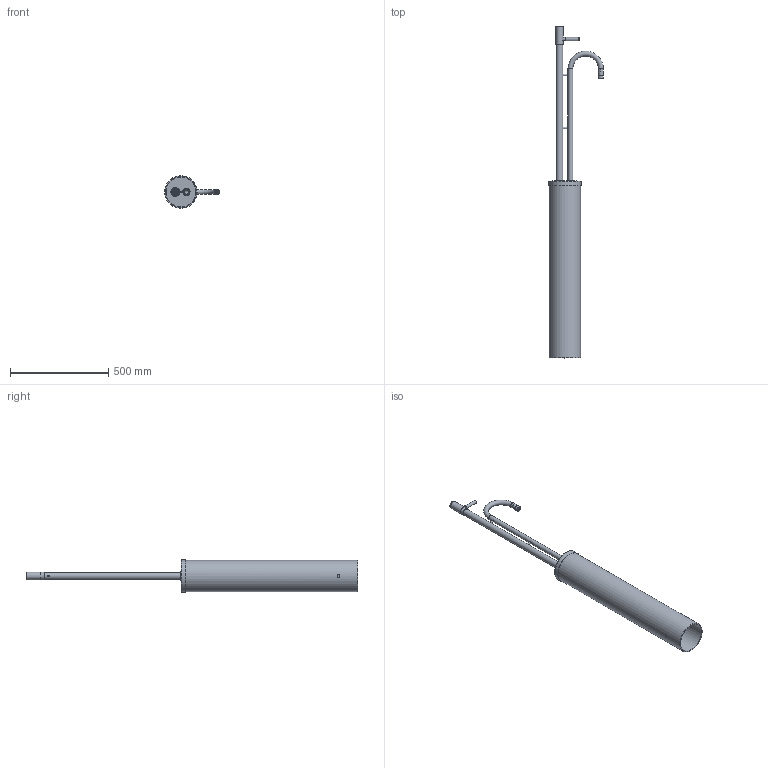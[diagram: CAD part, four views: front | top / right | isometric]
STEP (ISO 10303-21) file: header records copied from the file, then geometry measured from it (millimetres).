
FILE_DESCRIPTION(/* description */ ('Duo L 30 Havevandpost (F102)'),/* implementation_level */ '2;1');
FILE_NAME(/* name */ 'DH 00400.stp',/* time_stamp */ '2022-12-15T14:11:52+01:00',/* author */ ('thomas'),/* organization */ (''),/* preprocessor_version */ 'ST-DEVELOPER v19.2',/* originating_system */ 'Autodesk Inventor 2023',/* authorisation */ '');
FILE_SCHEMA (('AUTOMOTIVE_DESIGN { 1 0 10303 214 3 1 1 }'));
Length unit declared in the file: millimetre
Products named in the file (23): Planskive M34; f 02005a; f 02014; Omløber 3 8T; Skærering Ø12mm; Skærering Ø8mm; Undersænket skrue M5x6mm; Pinolskrue M4x5mm; DH 00403-1; DH 00401; Df 00108; Df 00107-2; f 02016; f 02017; Df 00111; f 02047; f 02003a; f 02004; f 02005; Støttebøsning 10mm; Df 00110; Omløber 1/4"; f 02020a
Assembly tree (25 placements, depth 3):
  Planskive M34
    f 02005a
    f 02014
    Omløber 3 8T
    Skærering Ø12mm
    Skærering Ø8mm
    Undersænket skrue M5x6mm  x2
    Pinolskrue M4x5mm
    DH 00403-1
      DH 00401
      Df 00108
      Df 00107-2
      Df 00111  x3
      f 02016
      f 02017
    f 02047
      f 02003a
      f 02004
      f 02005
    Støttebøsning 10mm
    Df 00110
    Omløber 1/4"
    f 02020a
Bounding box: 278 x 1691.2 x 165 mm (x, y, z)
Volume: 2350370.5 mm3; surface area: 1461673.9 mm2
Topology: 23 solids, 23 shells, 230 faces, 463 edges, 297 vertices
Faces by surface type: plane 109, cylinder 66, cone 46, torus 9
Full cylindrical faces by diameter (mm): 3.242 x2, 3.9 x2, 4 x2, 4.2 x1, 7.3 x2, 7.9 x2, 8 x1, 8.15 x1, 8.2 x1, 8.376 x1, 8.5 x1, 8.6 x1, 9.8 x1, 10 x6, 10.1 x1, 11 x1, 11.6 x1, 12 x1, 12.1 x1, 12.3 x1, 13 x1, 13.5 x1, 13.765 x1, 14 x1, 14.6 x1, 15 x1, 16 x2, 16.5 x1, 16.6 x1, 18 x1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
Entity records: 6925 total; most frequent: CARTESIAN_POINT 1470, DIRECTION 1051, ORIENTED_EDGE 812, AXIS2_PLACEMENT_3D 426, EDGE_CURVE 406, EDGE_LOOP 266, VERTEX_POINT 260, FACE_OUTER_BOUND 203
